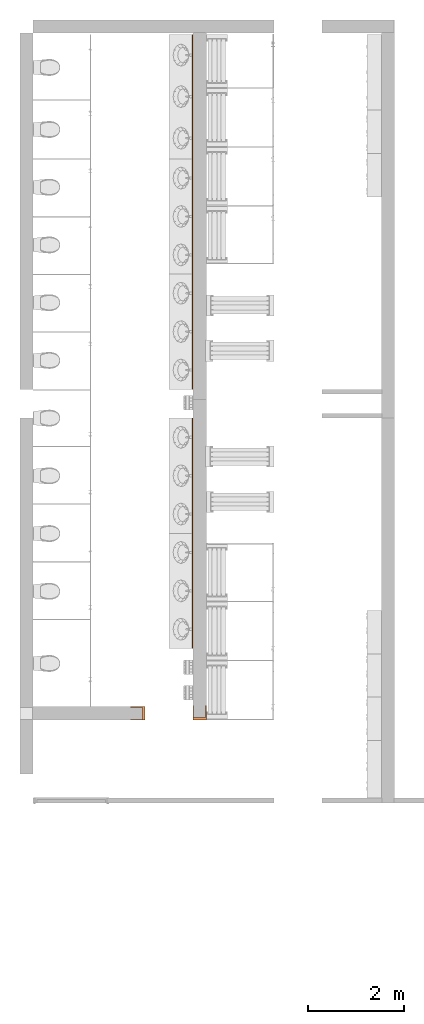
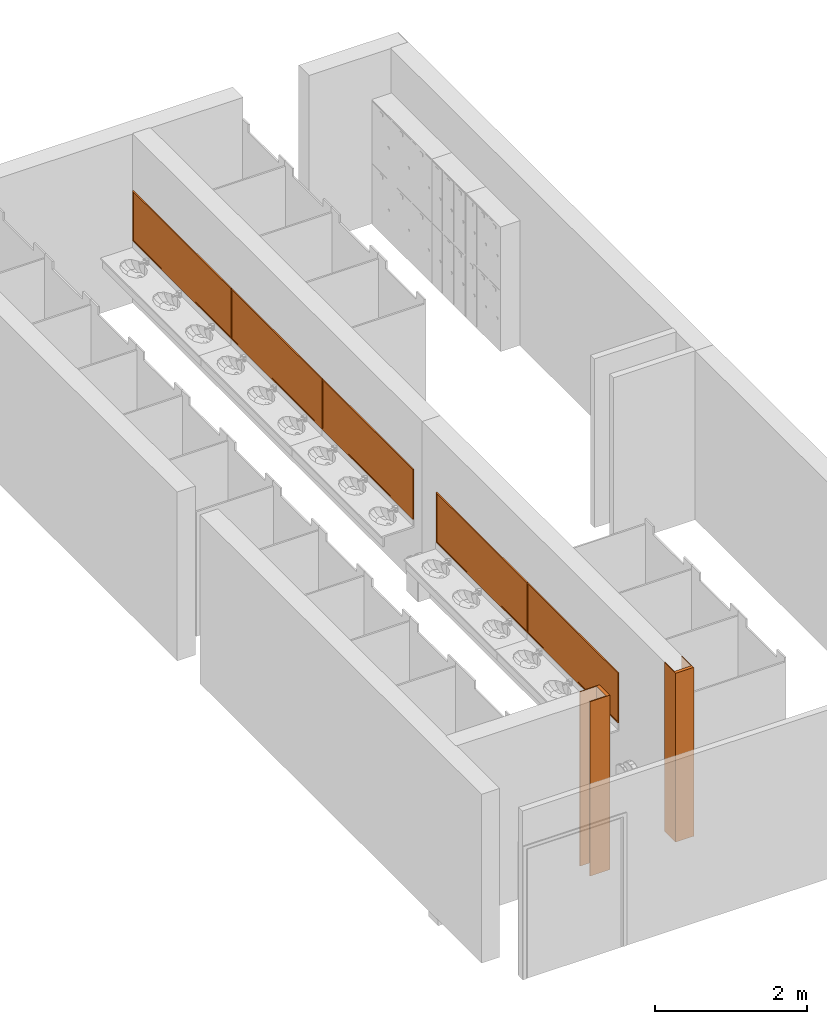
# One storey, part 21 of 22: 7 proxies.
"""IFC2X3 building model written with IfcOpenShell, lengths in millimetres."""

import ifcopenshell
import ifcopenshell.guid

model = None  # the IFC model being written
_history = None  # IfcOwnerHistory: only IFC2X3 demands one
_inside = {}  # id of a spatial element -> (the spatial element, [elements in it])
_under = {}  # id of a project, library or spatial element -> (it, [spatial elements below it])
_declared = {}  # id of a project -> (the project, [libraries it declares])
_typed = {}  # id of a type object -> (the type object, [elements of that type])
_made_of = {}  # id of a material, layer set ... -> (it, [elements and type objects made of it])


def new_model(schema):
    """Start an empty IFC model of exactly this schema.

    Asked for "IFC4X3", IfcOpenShell would pick the latest addendum, in which some entities
    have other attributes; the version numbers below select the first issue.
    IFC2X3 requires an IfcOwnerHistory on every rooted entity: one is made here for all.
    """
    global model, _history
    if schema == "IFC4X3":
        model = ifcopenshell.file(schema_version=(4, 3, 0, 0))
    else:
        model = ifcopenshell.file(schema=schema)
    _inside.clear()
    _under.clear()
    _declared.clear()
    _typed.clear()
    _made_of.clear()
    _history = None
    if model.schema == "IFC2X3":
        org = make("IfcOrganization", Name="unknown")
        user = make(
            "IfcPersonAndOrganization",
            ThePerson=make("IfcPerson", FamilyName="unknown"),
            TheOrganization=org,
        )
        app = make(
            "IfcApplication",
            ApplicationDeveloper=org,
            Version="unknown",
            ApplicationFullName="unknown",
            ApplicationIdentifier="unknown",
        )
        _history = make(
            "IfcOwnerHistory",
            OwningUser=user,
            OwningApplication=app,
            ChangeAction="ADDED",
            CreationDate=0,
        )
    return model


def make(cls, **values):
    """One entity of the class cls with the attributes given. An attribute that is None is left unset."""
    return model.create_entity(
        cls, **{name: value for name, value in values.items() if value is not None}
    )


def entity(cls, *values):
    """Any entity or typed value of the class cls, its attributes in the order of the schema. None: left unset."""
    e = model.create_entity(cls)
    for i, value in enumerate(values):
        if value is not None:
            e[i] = value
    return e


def rooted(cls, **values):
    """An entity with a GlobalId (a new one), such as an element, a storey or a relation."""
    return make(cls, GlobalId=ifcopenshell.guid.new(), OwnerHistory=_history, **values)


def si_unit(unit_type, name, prefix=None):
    """IfcSIUnit, for example si_unit("LENGTHUNIT", "METRE", prefix="MILLI")."""
    return make("IfcSIUnit", UnitType=unit_type, Prefix=prefix, Name=name)


def converted_unit(unit_type, name, factor, base, dimensions=None, offset=None):
    """IfcConversionBasedUnit, such as the inch: factor (a typed value) times the base unit."""
    return make(
        "IfcConversionBasedUnit"
        if offset is None
        else "IfcConversionBasedUnitWithOffset",
        ConversionOffset=offset,
        Dimensions=None
        if dimensions is None
        else entity("IfcDimensionalExponents", *dimensions),
        UnitType=unit_type,
        Name=name,
        ConversionFactor=make(
            "IfcMeasureWithUnit", ValueComponent=factor, UnitComponent=base
        ),
    )


def derived_unit(unit_type, elements):
    """IfcDerivedUnit: a product of units, each with its exponent."""
    return make(
        "IfcDerivedUnit",
        Elements=[
            make("IfcDerivedUnitElement", Unit=unit, Exponent=power)
            for unit, power in elements
        ],
        UnitType=unit_type,
    )


def assignment(units):
    """IfcUnitAssignment: the units of a project."""
    return None if units is None else make("IfcUnitAssignment", Units=units)


def point(xyz):
    """IfcCartesianPoint."""
    return None if xyz is None else make("IfcCartesianPoint", Coordinates=xyz)


def direction(xyz):
    """IfcDirection."""
    return None if xyz is None else make("IfcDirection", DirectionRatios=xyz)


def frame(location, z_axis=None, x_axis=None):
    """IfcAxis2Placement3D, a coordinate frame: its origin and axes. An axis left out is left unset."""
    return make(
        "IfcAxis2Placement3D",
        Location=point(location),
        Axis=direction(z_axis),
        RefDirection=direction(x_axis),
    )


def frame_2d(location, x_axis=None):
    """IfcAxis2Placement2D, a coordinate frame in the plane: its origin and x axis."""
    return make(
        "IfcAxis2Placement2D", Location=point(location), RefDirection=direction(x_axis)
    )


def origin():
    """The frame at (0, 0, 0) with its axes left unset."""
    return frame((0.0, 0.0, 0.0))


def origin_2d_with_axis():
    """The frame at (0, 0) in the plane with the x axis (1, 0) written out."""
    return frame_2d((0.0, 0.0), x_axis=(1.0, 0.0))


def place(relative_to, where):
    """IfcLocalPlacement: puts the frame where relative to a parent placement (None: the world)."""
    return make(
        "IfcLocalPlacement", PlacementRelTo=relative_to, RelativePlacement=where
    )


def context(
    kind, dimensions, precision=None, world=None, true_north=None, identifier=None
):
    """IfcGeometricRepresentationContext, for example the 3D "Model" context."""
    return make(
        "IfcGeometricRepresentationContext",
        ContextIdentifier=identifier,
        ContextType=kind,
        CoordinateSpaceDimension=dimensions,
        Precision=precision,
        WorldCoordinateSystem=world,
        TrueNorth=true_north,
    )


def subcontext(parent, identifier, kind, view, scale=None):
    """IfcGeometricRepresentationSubContext, for example "Body" below "Model"."""
    return make(
        "IfcGeometricRepresentationSubContext",
        ContextIdentifier=identifier,
        ContextType=kind,
        ParentContext=parent,
        TargetScale=scale,
        TargetView=view,
    )


def project(units=None, contexts=None):
    """IfcProject with its units and contexts."""
    return rooted(
        "IfcProject",
        Name="project",
        RepresentationContexts=contexts,
        UnitsInContext=assignment(units),
    )


def spatial(cls, under=None, at=None, **own):
    """A site, building, storey or space (cls), placed at a placement, below another one or the project."""
    s = rooted(cls, ObjectPlacement=at, **own)
    if under is not None:
        _under.setdefault(under.id(), (under, []))[1].append(s)
    return s


def polyline(points):
    """IfcPolyline through the points."""
    return make("IfcPolyline", Points=[point(p) for p in points])


def profile(cls, at=None, kind="AREA", **sizes):
    """A parametric profile (cls). Its sizes go by their IFC names, for example OverallWidth=200.0."""
    return make(cls, ProfileType=kind, Position=at, **sizes)


def rectangle(**sizes):
    """IfcRectangleProfileDef."""
    return profile("IfcRectangleProfileDef", **sizes)


def outline(outer, holes=None, kind="AREA"):
    """IfcArbitraryClosedProfileDef: a profile drawn as a closed curve; with holes, ...WithVoids."""
    if holes is None:
        return make("IfcArbitraryClosedProfileDef", ProfileType=kind, OuterCurve=outer)
    return make(
        "IfcArbitraryProfileDefWithVoids",
        ProfileType=kind,
        OuterCurve=outer,
        InnerCurves=holes,
    )


def extrude(swept, where, along, depth):
    """IfcExtrudedAreaSolid: the profile swept, set in the frame where, extruded along a direction by depth."""
    return make(
        "IfcExtrudedAreaSolid",
        SweptArea=swept,
        Position=where,
        ExtrudedDirection=direction(along),
        Depth=depth,
    )


def shape(context_of_items, identifier, shape_type, items):
    """IfcShapeRepresentation: the items that make up one representation, for example the "Body"."""
    return make(
        "IfcShapeRepresentation",
        ContextOfItems=context_of_items,
        RepresentationIdentifier=identifier,
        RepresentationType=shape_type,
        Items=items,
    )


def source(mapping_origin, context_of_items, identifier, shape_type, items):
    """IfcRepresentationMap: a shape defined once, which mapped items show again and again."""
    return make(
        "IfcRepresentationMap",
        MappingOrigin=mapping_origin,
        MappedRepresentation=shape(context_of_items, identifier, shape_type, items),
    )


def transform(
    local_origin,
    x_axis=None,
    y_axis=None,
    z_axis=None,
    scale=None,
    scale2=None,
    scale3=None,
    uniform=True,
):
    """IfcCartesianTransformationOperator3D, or its non-uniform kind. x_axis, y_axis, z_axis: its Axis1, 2, 3."""
    if uniform:
        return make(
            "IfcCartesianTransformationOperator3D",
            Axis1=direction(x_axis),
            Axis2=direction(y_axis),
            LocalOrigin=point(local_origin),
            Scale=scale,
            Axis3=direction(z_axis),
        )
    return make(
        "IfcCartesianTransformationOperator3DnonUniform",
        Axis1=direction(x_axis),
        Axis2=direction(y_axis),
        LocalOrigin=point(local_origin),
        Scale=scale,
        Axis3=direction(z_axis),
        Scale2=scale2,
        Scale3=scale3,
    )


def mapped(mapping_source, mapping_target):
    """IfcMappedItem: shows the shape of a source again, moved by a transform."""
    return make(
        "IfcMappedItem", MappingSource=mapping_source, MappingTarget=mapping_target
    )


def material(Name=None, Category=None):
    """IfcMaterial."""
    return make("IfcMaterial", Name=Name, Category=Category)


def material_list(materials):
    """IfcMaterialList."""
    return make("IfcMaterialList", Materials=materials)


def made_of(thing, what):
    """Note that an element or type object is made of a material, layer set ...; save() writes the relation."""
    if what is not None:
        _made_of.setdefault(what.id(), (what, []))[1].append(thing)
    return thing


def type_object(cls, material=None, **own):
    """A type object (cls), such as IfcWallType, which elements share."""
    return made_of(rooted(cls, **own), material)


def type_shapes(of_type, sources):
    """Give a type object the sources (RepresentationMaps) that its elements show as mapped items."""
    of_type.RepresentationMaps = sources


def element(
    cls,
    number,
    at=None,
    inside=None,
    cuts=None,
    type_object=None,
    material=None,
    context=None,
    identifier="Body",
    shape_type=None,
    held_by="IfcProductDefinitionShape",
    body=None,
    shapes=None,
    **own,
):
    """One element of the class cls, such as IfcWall. Its Tag is "e" and its number.

    at: its placement. inside: the storey or other place that contains it. cuts: it is an
    opening in that element (IfcRelVoidsElement). A single representation is given by context,
    identifier, shape_type and body (its items); several are given by shapes. held_by: the class
    of the entity that holds the representations. save() writes the other relations.
    """
    e = rooted(cls, Tag="e%d" % number, ObjectPlacement=at, **own)
    if body is not None:
        shapes = [shape(context, identifier, shape_type, body)]
    if shapes is not None:
        e.Representation = make(held_by, Representations=shapes)
    if inside is not None:
        _inside.setdefault(inside.id(), (inside, []))[1].append(e)
    if cuts is not None:
        rooted(
            "IfcRelVoidsElement", RelatingBuildingElement=cuts, RelatedOpeningElement=e
        )
    if type_object is not None:
        _typed.setdefault(type_object.id(), (type_object, []))[1].append(e)
    return made_of(e, material)


def aggregate(whole, parts):
    """IfcRelAggregates: a whole, such as a stair, and the parts it consists of."""
    return rooted("IfcRelAggregates", RelatingObject=whole, RelatedObjects=parts)


def save(model, path):
    """Write the relations noted so far, then the file.

    IfcRelAggregates (storeys below a building ...), IfcRelContainedInSpatialStructure (elements
    in a storey), IfcRelDefinesByType, IfcRelAssociatesMaterial and IfcRelDeclares: one each for
    every whole, place, type object, material and project.
    """
    for whole, parts in _under.values():
        aggregate(whole, parts)
    for where, things in _inside.values():
        rooted(
            "IfcRelContainedInSpatialStructure",
            RelatedElements=things,
            RelatingStructure=where,
        )
    for kind, things in _typed.values():
        rooted("IfcRelDefinesByType", RelatedObjects=things, RelatingType=kind)
    for what, things in _made_of.values():
        rooted("IfcRelAssociatesMaterial", RelatedObjects=things, RelatingMaterial=what)
    for by, libraries in _declared.values():
        rooted("IfcRelDeclares", RelatingContext=by, RelatedDefinitions=libraries)
    model.write(path)


model = new_model("IFC2X3")

# Units and contexts
model_context = context("Model", 3, precision=0.01, world=origin(), true_north=direction((6.12303176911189e-17, 1.0)))
body_context = subcontext(model_context, "Body", "Model", "MODEL_VIEW")
ifc_project = project(units=[si_unit("LENGTHUNIT", "METRE", prefix="MILLI"), si_unit("AREAUNIT", "SQUARE_METRE"), si_unit("VOLUMEUNIT", "CUBIC_METRE"), converted_unit("PLANEANGLEUNIT", "DEGREE", entity("IfcRatioMeasure", 0.0174532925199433), si_unit("PLANEANGLEUNIT", "RADIAN"), dimensions=[0, 0, 0, 0, 0, 0, 0]), si_unit("MASSUNIT", "GRAM", prefix="KILO"), derived_unit("MASSDENSITYUNIT", [(si_unit("MASSUNIT", "GRAM", prefix="KILO"), 1), (si_unit("LENGTHUNIT", "METRE"), -3)]), si_unit("TIMEUNIT", "SECOND"), si_unit("FREQUENCYUNIT", "HERTZ"), si_unit("THERMODYNAMICTEMPERATUREUNIT", "DEGREE_CELSIUS"), derived_unit("THERMALTRANSMITTANCEUNIT", [(si_unit("MASSUNIT", "GRAM", prefix="KILO"), 1), (si_unit("THERMODYNAMICTEMPERATUREUNIT", "KELVIN"), -1), (si_unit("TIMEUNIT", "SECOND"), -3)]), derived_unit("VOLUMETRICFLOWRATEUNIT", [(si_unit("LENGTHUNIT", "METRE"), 3), (si_unit("TIMEUNIT", "SECOND"), -1)]), si_unit("ELECTRICCURRENTUNIT", "AMPERE"), si_unit("ELECTRICVOLTAGEUNIT", "VOLT"), si_unit("POWERUNIT", "WATT"), si_unit("FORCEUNIT", "NEWTON", prefix="KILO"), si_unit("ILLUMINANCEUNIT", "LUX"), si_unit("LUMINOUSFLUXUNIT", "LUMEN"), si_unit("LUMINOUSINTENSITYUNIT", "CANDELA"), derived_unit("USERDEFINED", [(si_unit("MASSUNIT", "GRAM", prefix="KILO"), -1), (si_unit("LENGTHUNIT", "METRE"), -2), (si_unit("TIMEUNIT", "SECOND"), 3), (si_unit("LUMINOUSFLUXUNIT", "LUMEN"), 1)]), derived_unit("LINEARVELOCITYUNIT", [(si_unit("LENGTHUNIT", "METRE"), 1), (si_unit("TIMEUNIT", "SECOND"), -1)]), si_unit("PRESSUREUNIT", "PASCAL"), derived_unit("USERDEFINED", [(si_unit("LENGTHUNIT", "METRE"), -2), (si_unit("MASSUNIT", "GRAM", prefix="KILO"), 1), (si_unit("TIMEUNIT", "SECOND"), -2)])], contexts=[model_context])

# Site, building, storey
site_placement = place(None, origin())
site = spatial("IfcSite", under=ifc_project, at=site_placement, Name="Default", CompositionType="ELEMENT")
building_placement = place(site_placement, origin())
building = spatial("IfcBuilding", under=site, at=building_placement, CompositionType="ELEMENT")
storey_placement = place(building_placement, frame((0.0, 0.0, -3000.0)))
storey = spatial("IfcBuildingStorey", under=building, at=storey_placement, Name="-2. Story", CompositionType="ELEMENT", Elevation=-3000.0)

# Proxies
ifc_material_1 = material(Name="Stucco - White Fine")
building_element_proxy_type_1 = type_object("IfcBuildingElementProxyType", Name="WE - 001", PredefinedType="NOTDEFINED", material=ifc_material_1)
shared_shape_1 = source(origin(), body_context, "Body", "SweptSolid", [
    extrude(rectangle(XDim=49.9999999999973, YDim=250.000000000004, at=frame_2d((-4.33253433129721e-12, 4.33431068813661e-12), x_axis=(1.0, 0.0))), frame((49306.48326232, 76366.4483369, -3000.0)), (0.0, 0.0, 1.0), 2800.0),
    extrude(rectangle(XDim=250.000000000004, YDim=12.4999999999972, at=frame_2d((-4.33431068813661e-12, 4.33164615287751e-12), x_axis=(1.0, 0.0))), frame((49156.48326232, 76235.1983369, -3000.0)), (0.0, 0.0, 1.0), 2800.0),
    extrude(rectangle(XDim=49.9999999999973, YDim=12.4999999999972, at=frame_2d((-4.33253433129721e-12, 4.33164615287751e-12), x_axis=(1.0, 0.0))), frame((49306.48326232, 76235.1983369, -3000.0)), (0.0, 0.0, 1.0), 2800.0),
    extrude(rectangle(XDim=250.000000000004, YDim=12.4999999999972, at=frame_2d((-4.33431068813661e-12, -4.33164615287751e-12), x_axis=(1.0, 0.0))), frame((49156.48326232, 76497.6983369, -3000.0)), (0.0, 0.0, 1.0), 2800.0),
    extrude(rectangle(XDim=49.9999999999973, YDim=12.4999999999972, at=frame_2d((-4.33253433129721e-12, -4.33164615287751e-12), x_axis=(1.0, 0.0))), frame((49306.48326232, 76497.6983369, -3000.0)), (0.0, 0.0, 1.0), 2800.0),
])
type_shapes(building_element_proxy_type_1, [shared_shape_1])
proxy_1_placement = place(storey_placement, frame((0.0, 0.0, 3000.0)))
element("IfcBuildingElementProxy", 1, at=proxy_1_placement, inside=storey, type_object=building_element_proxy_type_1, material=ifc_material_1, Name="WE - 001:WE - 001", ObjectType="WE - 001:WE - 001", context=body_context, shape_type="MappedRepresentation", body=[
    mapped(shared_shape_1, transform((0.0, 0.0, 0.0), scale=1.0)),
])
building_element_proxy_type_2 = type_object("IfcBuildingElementProxyType", Name="WE - 001", PredefinedType="NOTDEFINED", material=ifc_material_1)
shared_shape_2 = source(origin(), body_context, "Body", "SweptSolid", [
    extrude(rectangle(XDim=49.9999999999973, YDim=250.000000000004, at=frame_2d((4.33253433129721e-12, 4.33431068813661e-12), x_axis=(1.0, 0.0))), frame((50468.9832624, 76253.9483369, -2910.0), z_axis=(0.0, 0.0, 1.0), x_axis=(0.0, -1.0, 0.0)), (0.0, 0.0, 1.0), 2710.0),
    extrude(rectangle(XDim=250.000000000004, YDim=12.4999999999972, at=frame_2d((-4.33431068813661e-12, 4.33164615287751e-12), x_axis=(1.0, 0.0))), frame((50337.7332624, 76403.9483369, -2910.0), z_axis=(0.0, 0.0, 1.0), x_axis=(0.0, -1.0, 0.0)), (0.0, 0.0, 1.0), 2710.0),
    extrude(rectangle(XDim=49.9999999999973, YDim=12.4999999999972, at=frame_2d((4.33253433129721e-12, 4.33164615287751e-12), x_axis=(1.0, 0.0))), frame((50337.7332624, 76253.9483369, -2910.0), z_axis=(0.0, 0.0, 1.0), x_axis=(0.0, -1.0, 0.0)), (0.0, 0.0, 1.0), 2710.0),
    extrude(rectangle(XDim=250.000000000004, YDim=12.4999999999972, at=frame_2d((-4.33431068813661e-12, -4.33164615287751e-12), x_axis=(1.0, 0.0))), frame((50600.2332624, 76403.9483369, -2910.0), z_axis=(0.0, 0.0, 1.0), x_axis=(0.0, -1.0, 0.0)), (0.0, 0.0, 1.0), 2710.0),
    extrude(rectangle(XDim=49.9999999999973, YDim=12.4999999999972, at=frame_2d((4.33253433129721e-12, -4.33164615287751e-12), x_axis=(1.0, 0.0))), frame((50600.2332624, 76253.9483369, -2910.0), z_axis=(0.0, 0.0, 1.0), x_axis=(0.0, -1.0, 0.0)), (0.0, 0.0, 1.0), 2710.0),
])
type_shapes(building_element_proxy_type_2, [shared_shape_2])
proxy_2_placement = place(storey_placement, frame((0.0, 0.0, 3000.0)))
element("IfcBuildingElementProxy", 2, at=proxy_2_placement, inside=storey, type_object=building_element_proxy_type_2, material=ifc_material_1, Name="WE - 001 1508935:WE - 001 1508935", ObjectType="WE - 001 1508935:WE - 001 1508935", context=body_context, shape_type="MappedRepresentation", body=[
    mapped(shared_shape_2, transform((0.0, 0.0, 0.0), scale=1.0)),
])
ifc_material_2 = material(Name="Glass - Mirror")
ifc_material_3 = material(Name="Metal - Stainless Steel")
ifc_material_list_1 = material_list([ifc_material_2, ifc_material_3])
ifc_material_list_2 = material_list([ifc_material_2, ifc_material_3])
building_element_proxy_type_3 = type_object("IfcBuildingElementProxyType", Name="FU - 008", PredefinedType="NOTDEFINED", material=ifc_material_list_2)
shared_shape_3 = source(origin(), body_context, "Body", "SweptSolid", [
    extrude(rectangle(XDim=2354.20464307, YDim=12.7004098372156, at=origin_2d_with_axis()), frame((50321.9579549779, 81306.846015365, -1874.45053944), z_axis=(0.0, 0.0, 1.0), x_axis=(0.0, 1.0, 0.0)), (0.0, 0.0, 1.0), 760.0),
    extrude(outline(polyline([(825.265965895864, -839.408101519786), (853.550237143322, -839.408101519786), (-839.40810151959, 853.550237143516), (-839.408101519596, 825.265965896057), (825.265965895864, -839.408101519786)])), frame((50312.4326476, 81306.846015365, -1104.45053944), z_axis=(1.0, 0.0, 0.0), x_axis=(0.0, 0.707106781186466, 0.707106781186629)), (0.0, 0.0, 1.0), 19.0506147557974),
    extrude(outline(polyline([(-1197.10232153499, -10.0), (1197.10232153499, -10.0), (1177.102321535, 10.0), (-1177.102321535, 10.0), (-1197.10232153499, -10.0)])), frame((50312.4326476, 81306.846015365, -1884.45053944), z_axis=(1.0, 0.0, 0.0), x_axis=(0.0, 1.0, 0.0)), (0.0, 0.0, 1.0), 19.0506147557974),
    extrude(outline(polyline([(-400.0, -10.0), (400.0, -10.0), (380.0, 10.0), (-380.0, 10.0), (-400.0, -10.0)])), frame((50312.4326476, 80119.74369383, -1494.45053944), z_axis=(1.0, 0.0, 0.0), x_axis=(0.0, 0.0, -1.0)), (0.0, 0.0, 1.0), 19.0506147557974),
    extrude(outline(polyline([(261.629509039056, -275.771644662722), (289.913780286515, -275.771644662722), (-275.771644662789, 289.913780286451), (-275.771644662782, 261.629509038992), (261.629509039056, -275.771644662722)])), frame((50312.4326476, 82493.9483369, -1494.45053944), z_axis=(1.0, 0.0, 0.0), x_axis=(0.0, 0.707106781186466, -0.707106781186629)), (0.0, 0.0, 1.0), 19.0506147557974),
])
type_shapes(building_element_proxy_type_3, [shared_shape_3])
proxy_3_placement = place(storey_placement, frame((0.0, 0.0, 3000.0)))
element("IfcBuildingElementProxy", 3, at=proxy_3_placement, inside=storey, type_object=building_element_proxy_type_3, material=ifc_material_list_1, Name="FU - 008 1515161:FU - 008 1515161", ObjectType="FU - 008 1515161:FU - 008 1515161", context=body_context, shape_type="MappedRepresentation", body=[
    mapped(shared_shape_3, transform((0.0, 0.0, 0.0), scale=1.0)),
])
ifc_material_list_3 = material_list([ifc_material_2, ifc_material_3])
ifc_material_list_4 = material_list([ifc_material_2, ifc_material_3])
building_element_proxy_type_4 = type_object("IfcBuildingElementProxyType", Name="FU - 008", PredefinedType="NOTDEFINED", material=ifc_material_list_4)
shared_shape_4 = source(origin(), body_context, "Body", "SweptSolid", [
    extrude(rectangle(XDim=2354.20464306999, YDim=12.7004098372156, at=frame_2d((4.32009983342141e-12, 0.0), x_axis=(1.0, 0.0))), frame((50321.9579549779, 78912.641372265, -1874.45053944), z_axis=(0.0, 0.0, 1.0), x_axis=(0.0, 1.0, 0.0)), (0.0, 0.0, 1.0), 760.0),
    extrude(outline(polyline([(825.26596589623, -839.408101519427), (853.550237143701, -839.408101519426), (-839.408101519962, 853.55023714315), (-839.40810151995, 825.265965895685), (825.26596589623, -839.408101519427)])), frame((50312.4326476, 78912.641372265, -1104.45053944), z_axis=(1.0, 0.0, 0.0), x_axis=(0.0, 0.707106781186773, 0.707106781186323)), (0.0, 0.0, 1.0), 19.0506147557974),
    extrude(outline(polyline([(-1197.10232153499, -10.0), (1197.10232153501, -10.0), (1177.102321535, 10.0), (-1177.10232153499, 10.0), (-1197.10232153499, -10.0)])), frame((50312.4326476, 78912.641372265, -1884.45053944), z_axis=(1.0, 0.0, 0.0), x_axis=(0.0, 1.0, 0.0)), (0.0, 0.0, 1.0), 19.0506147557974),
    extrude(outline(polyline([(-400.0, -10.0), (400.0, -10.0), (380.0, 10.0), (-380.0, 10.0), (-400.0, -10.0)])), frame((50312.4326476, 77725.53905073, -1494.45053944), z_axis=(1.0, 0.0, 0.0), x_axis=(0.0, 0.0, -1.0)), (0.0, 0.0, 1.0), 19.0506147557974),
    extrude(outline(polyline([(261.629509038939, -275.771644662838), (289.91378028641, -275.771644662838), (-275.771644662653, 289.913780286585), (-275.771644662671, 261.629509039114), (261.629509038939, -275.771644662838)])), frame((50312.4326476, 80099.7436938, -1494.45053944), z_axis=(1.0, 0.0, 0.0), x_axis=(0.0, 0.707106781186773, -0.707106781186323)), (0.0, 0.0, 1.0), 19.0506147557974),
])
type_shapes(building_element_proxy_type_4, [shared_shape_4])
proxy_4_placement = place(storey_placement, frame((0.0, 0.0, 3000.0)))
element("IfcBuildingElementProxy", 4, at=proxy_4_placement, inside=storey, type_object=building_element_proxy_type_4, material=ifc_material_list_3, Name="FU - 008 1515332:FU - 008 1515332", ObjectType="FU - 008 1515332:FU - 008 1515332", context=body_context, shape_type="MappedRepresentation", body=[
    mapped(shared_shape_4, transform((0.0, 0.0, 0.0), scale=1.0)),
])
ifc_material_list_5 = material_list([ifc_material_2, ifc_material_3])
ifc_material_list_6 = material_list([ifc_material_2, ifc_material_3])
building_element_proxy_type_5 = type_object("IfcBuildingElementProxyType", Name="FU - 008", PredefinedType="NOTDEFINED", material=ifc_material_list_6)
shared_shape_5 = source(origin(), body_context, "Body", "SweptSolid", [
    extrude(rectangle(XDim=2550.86308057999, YDim=12.7004098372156, at=frame_2d((8.64019966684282e-12, 0.0), x_axis=(1.0, 0.0))), frame((50321.9579549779, 89187.78916331, -1874.45053944), z_axis=(0.0, 0.0, 1.0), x_axis=(0.0, 1.0, 0.0)), (0.0, 0.0, 1.0), 760.0),
    extrude(outline(polyline([(894.795223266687, -908.937358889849), (923.079494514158, -908.937358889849), (-908.93735889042, 923.079494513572), (-908.937358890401, 894.795223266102), (894.795223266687, -908.937358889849)])), frame((50312.4326476, 89187.78916331, -1104.45053944), z_axis=(1.0, 0.0, 0.0), x_axis=(0.0, 0.707106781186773, 0.707106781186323)), (0.0, 0.0, 1.0), 19.0506147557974),
    extrude(outline(polyline([(-1295.43154029, -10.0), (1295.43154029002, -10.0), (1275.43154029, 10.0), (-1275.43154028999, 10.0), (-1295.43154029, -10.0)])), frame((50312.4326476, 89187.78916331, -1884.45053944), z_axis=(1.0, 0.0, 0.0), x_axis=(0.0, 1.0, 0.0)), (0.0, 0.0, 1.0), 19.0506147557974),
    extrude(outline(polyline([(-400.0, -10.0), (400.0, -10.0), (380.0, 10.0), (-380.0, 10.0), (-400.0, -10.0)])), frame((50312.4326476, 87902.35762302, -1494.45053944), z_axis=(1.0, 0.0, 0.0), x_axis=(0.0, 0.0, -1.0)), (0.0, 0.0, 1.0), 19.0506147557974),
    extrude(outline(polyline([(261.629509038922, -275.771644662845), (289.913780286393, -275.771644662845), (-275.771644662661, 289.913780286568), (-275.771644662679, 261.629509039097), (261.629509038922, -275.771644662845)])), frame((50312.4326476, 90473.2207036, -1494.45053944), z_axis=(1.0, 0.0, 0.0), x_axis=(0.0, 0.707106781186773, -0.707106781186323)), (0.0, 0.0, 1.0), 19.0506147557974),
])
type_shapes(building_element_proxy_type_5, [shared_shape_5])
proxy_5_placement = place(storey_placement, frame((0.0, 0.0, 3000.0)))
element("IfcBuildingElementProxy", 5, at=proxy_5_placement, inside=storey, type_object=building_element_proxy_type_5, material=ifc_material_list_5, Name="FU - 008 1568106:FU - 008 1568106", ObjectType="FU - 008 1568106:FU - 008 1568106", context=body_context, shape_type="MappedRepresentation", body=[
    mapped(shared_shape_5, transform((0.0, 0.0, 0.0), scale=1.0)),
])
ifc_material_list_7 = material_list([ifc_material_2, ifc_material_3])
ifc_material_list_8 = material_list([ifc_material_2, ifc_material_3])
building_element_proxy_type_6 = type_object("IfcBuildingElementProxyType", Name="FU - 008", PredefinedType="NOTDEFINED", material=ifc_material_list_8)
shared_shape_6 = source(origin(), body_context, "Body", "SweptSolid", [
    extrude(rectangle(XDim=2354.20464307, YDim=12.7004098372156, at=origin_2d_with_axis()), frame((50321.9579549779, 86695.255301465, -1874.45053944), z_axis=(0.0, 0.0, 1.0), x_axis=(0.0, 1.0, 0.0)), (0.0, 0.0, 1.0), 760.0),
    extrude(outline(polyline([(825.265965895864, -839.408101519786), (853.550237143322, -839.408101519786), (-839.40810151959, 853.550237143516), (-839.408101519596, 825.265965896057), (825.265965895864, -839.408101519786)])), frame((50312.4326476, 86695.255301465, -1104.45053944), z_axis=(1.0, 0.0, 0.0), x_axis=(0.0, 0.707106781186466, 0.707106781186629)), (0.0, 0.0, 1.0), 19.0506147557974),
    extrude(outline(polyline([(-1197.10232153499, -10.0), (1197.10232153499, -10.0), (1177.102321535, 10.0), (-1177.102321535, 10.0), (-1197.10232153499, -10.0)])), frame((50312.4326476, 86695.255301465, -1884.45053944), z_axis=(1.0, 0.0, 0.0), x_axis=(0.0, 1.0, 0.0)), (0.0, 0.0, 1.0), 19.0506147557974),
    extrude(outline(polyline([(-400.0, -10.0), (400.0, -10.0), (380.0, 10.0), (-380.0, 10.0), (-400.0, -10.0)])), frame((50312.4326476, 85508.15297993, -1494.45053944), z_axis=(1.0, 0.0, 0.0), x_axis=(0.0, 0.0, -1.0)), (0.0, 0.0, 1.0), 19.0506147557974),
    extrude(outline(polyline([(261.629509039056, -275.771644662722), (289.913780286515, -275.771644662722), (-275.771644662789, 289.913780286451), (-275.771644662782, 261.629509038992), (261.629509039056, -275.771644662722)])), frame((50312.4326476, 87882.357623, -1494.45053944), z_axis=(1.0, 0.0, 0.0), x_axis=(0.0, 0.707106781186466, -0.707106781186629)), (0.0, 0.0, 1.0), 19.0506147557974),
])
type_shapes(building_element_proxy_type_6, [shared_shape_6])
proxy_6_placement = place(storey_placement, frame((0.0, 0.0, 3000.0)))
element("IfcBuildingElementProxy", 6, at=proxy_6_placement, inside=storey, type_object=building_element_proxy_type_6, material=ifc_material_list_7, Name="FU - 008 1568273:FU - 008 1568273", ObjectType="FU - 008 1568273:FU - 008 1568273", context=body_context, shape_type="MappedRepresentation", body=[
    mapped(shared_shape_6, transform((0.0, 0.0, 0.0), scale=1.0)),
])
ifc_material_list_9 = material_list([ifc_material_2, ifc_material_3])
ifc_material_list_10 = material_list([ifc_material_2, ifc_material_3])
building_element_proxy_type_7 = type_object("IfcBuildingElementProxyType", Name="FU - 008", PredefinedType="NOTDEFINED", material=ifc_material_list_10)
shared_shape_7 = source(origin(), body_context, "Body", "SweptSolid", [
    extrude(rectangle(XDim=2354.20464307, YDim=12.7004098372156, at=origin_2d_with_axis()), frame((50321.9579549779, 84301.050658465, -1874.45053944), z_axis=(0.0, 0.0, 1.0), x_axis=(0.0, 1.0, 0.0)), (0.0, 0.0, 1.0), 760.0),
    extrude(outline(polyline([(825.26596589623, -839.408101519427), (853.550237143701, -839.408101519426), (-839.408101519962, 853.55023714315), (-839.408101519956, 825.265965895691), (825.26596589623, -839.408101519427)])), frame((50312.4326476, 84301.050658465, -1104.45053944), z_axis=(1.0, 0.0, 0.0), x_axis=(0.0, 0.707106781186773, 0.707106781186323)), (0.0, 0.0, 1.0), 19.0506147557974),
    extrude(outline(polyline([(-1197.10232153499, -10.0), (1197.10232153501, -10.0), (1177.102321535, 10.0), (-1177.102321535, 10.0), (-1197.10232153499, -10.0)])), frame((50312.4326476, 84301.050658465, -1884.45053944), z_axis=(1.0, 0.0, 0.0), x_axis=(0.0, 1.0, 0.0)), (0.0, 0.0, 1.0), 19.0506147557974),
    extrude(outline(polyline([(-400.0, -10.0), (400.0, -10.0), (380.0, 10.0), (-380.0, 10.0), (-400.0, -10.0)])), frame((50312.4326476, 83113.94833693, -1494.45053944), z_axis=(1.0, 0.0, 0.0), x_axis=(0.0, 0.0, -1.0)), (0.0, 0.0, 1.0), 19.0506147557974),
    extrude(outline(polyline([(261.629509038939, -275.771644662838), (289.91378028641, -275.771644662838), (-275.771644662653, 289.913780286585), (-275.771644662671, 261.629509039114), (261.629509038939, -275.771644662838)])), frame((50312.4326476, 85488.15298, -1494.45053944), z_axis=(1.0, 0.0, 0.0), x_axis=(0.0, 0.707106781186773, -0.707106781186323)), (0.0, 0.0, 1.0), 19.0506147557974),
])
type_shapes(building_element_proxy_type_7, [shared_shape_7])
proxy_7_placement = place(storey_placement, frame((0.0, 0.0, 3000.0)))
element("IfcBuildingElementProxy", 7, at=proxy_7_placement, inside=storey, type_object=building_element_proxy_type_7, material=ifc_material_list_9, Name="FU - 008 1568431:FU - 008 1568431", ObjectType="FU - 008 1568431:FU - 008 1568431", context=body_context, shape_type="MappedRepresentation", body=[
    mapped(shared_shape_7, transform((0.0, 0.0, 0.0), scale=1.0)),
])

save(model, "model.ifc")
